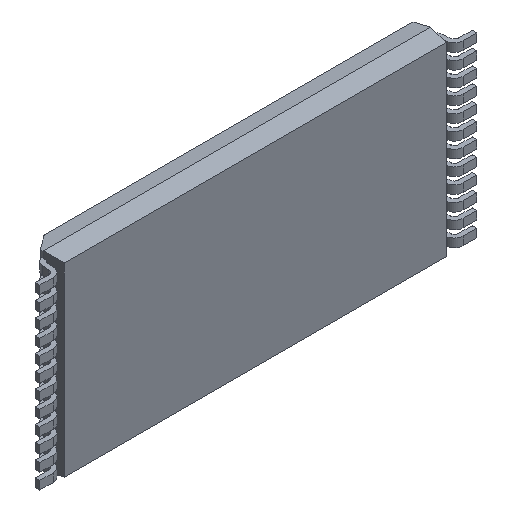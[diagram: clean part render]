
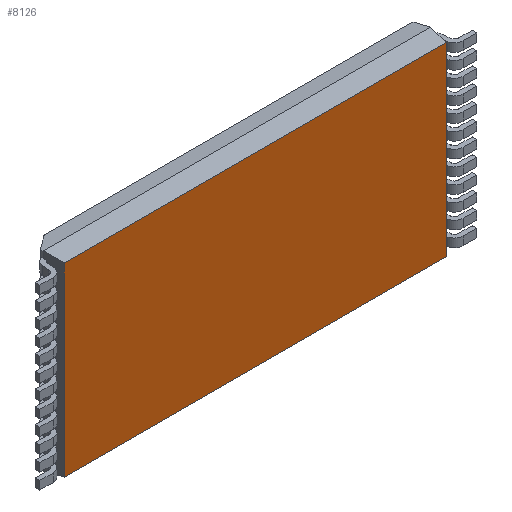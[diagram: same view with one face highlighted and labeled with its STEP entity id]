
A CAD part, isometric view. The second image highlights one B-rep face of the part: STEP entity #8126.
In plain terms, the highlighted planar face has unit normal (0, -1, 0).
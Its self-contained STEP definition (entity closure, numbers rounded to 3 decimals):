
#28 = EDGE_CURVE ( 'NONE', #2368, #2370, #5308, .T. ) ;
#47 = EDGE_CURVE ( 'NONE', #2370, #2359, #4831, .T. ) ;
#48 = EDGE_CURVE ( 'NONE', #2363, #2368, #4761, .T. ) ;
#298 = CARTESIAN_POINT ( 'NONE',  ( 6.216, 0.1, 3.1 ) ) ;
#307 = DIRECTION ( 'NONE',  ( 0., 0., 1. ) ) ;
#1346 = EDGE_CURVE ( 'NONE', #2359, #2363, #12178, .T. ) ;
#2359 = VERTEX_POINT ( 'NONE', #3544 ) ;
#2363 = VERTEX_POINT ( 'NONE', #3552 ) ;
#2368 = VERTEX_POINT ( 'NONE', #3560 ) ;
#2370 = VERTEX_POINT ( 'NONE', #3563 ) ;
#2781 = PLANE ( 'NONE',  #4295 ) ;
#2782 = CARTESIAN_POINT ( 'NONE',  ( 0., 0.1, 0. ) ) ;
#2787 = DIRECTION ( 'NONE',  ( 0., 1., 0. ) ) ;
#2788 = DIRECTION ( 'NONE',  ( 0., 0., 1. ) ) ;
#3148 = CARTESIAN_POINT ( 'NONE',  ( 6.3, 0.1, 3.016 ) ) ;
#3544 = CARTESIAN_POINT ( 'NONE',  ( 6.216, 0.1, -3.016 ) ) ;
#3552 = CARTESIAN_POINT ( 'NONE',  ( 6.216, 0.1, 3.016 ) ) ;
#3560 = CARTESIAN_POINT ( 'NONE',  ( -6.216, 0.1, 3.016 ) ) ;
#3563 = CARTESIAN_POINT ( 'NONE',  ( -6.216, 0.1, -3.016 ) ) ;
#3660 = DIRECTION ( 'NONE',  ( -1., 0., 0. ) ) ;
#3689 = DIRECTION ( 'NONE',  ( 1., 0., 0. ) ) ;
#3734 = CARTESIAN_POINT ( 'NONE',  ( 6.3, 0.1, -3.016 ) ) ;
#3847 = DIRECTION ( 'NONE',  ( 0., 0., -1. ) ) ;
#3853 = CARTESIAN_POINT ( 'NONE',  ( -6.216, 0.1, 3.1 ) ) ;
#4295 = AXIS2_PLACEMENT_3D ( 'NONE', #2782, #2787, #2788 ) ;
#4644 = ORIENTED_EDGE ( 'NONE', *, *, #48, .T. ) ;
#4646 = ORIENTED_EDGE ( 'NONE', *, *, #1346, .T. ) ;
#4647 = ORIENTED_EDGE ( 'NONE', *, *, #47, .T. ) ;
#4649 = ORIENTED_EDGE ( 'NONE', *, *, #28, .T. ) ;
#4761 = LINE ( 'NONE', #3148, #5014 ) ;
#4831 = LINE ( 'NONE', #3734, #5017 ) ;
#5014 = VECTOR ( 'NONE', #3660, 1000. ) ;
#5017 = VECTOR ( 'NONE', #3689, 1000. ) ;
#5302 = VECTOR ( 'NONE', #3847, 1000. ) ;
#5308 = LINE ( 'NONE', #3853, #5302 ) ;
#5392 = EDGE_LOOP ( 'NONE', ( #4649, #4647, #4646, #4644 ) ) ;
#8126 = ADVANCED_FACE ( 'NONE', ( #11200 ), #2781, .F. ) ;
#11200 = FACE_OUTER_BOUND ( 'NONE', #5392, .T. ) ;
#12160 = VECTOR ( 'NONE', #307, 1000. ) ;
#12178 = LINE ( 'NONE', #298, #12160 ) ;
